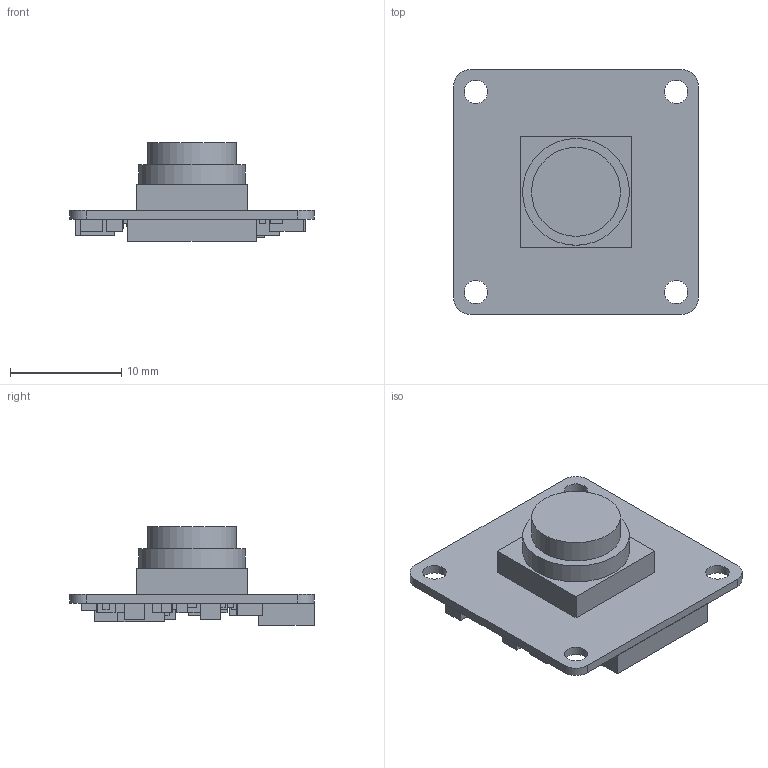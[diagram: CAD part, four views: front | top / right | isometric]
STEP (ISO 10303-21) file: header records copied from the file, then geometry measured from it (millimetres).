
FILE_DESCRIPTION(('Open CASCADE Model'),'2;1');
FILE_NAME('Open CASCADE Shape Model','2026-05-18T08:25:04',('Author'),( 'Open CASCADE'),'Open CASCADE STEP processor 7.5','Open CASCADE 7.5' ,'Unknown');
FILE_SCHEMA(('AUTOMOTIVE_DESIGN { 1 0 10303 214 1 1 1 1 }'));
Length unit declared in the file: millimetre
Products named in the file (89): PCB; Board; Open CASCADE STEP translator 7.5 1.1.1; R10; 6346291248; Extruded; D1; 6508890960; Q1; 6346286048; R3; 6346290448; R2; 6346290928; C25; 6346292048; C28; 6346289328; C27; C26; C13; CT2; 6508891360; CT1; 6508889120; R9; R8; C16; 6346291568; U2; 6346279808; R1; C8; R6; R5; C15; C5; C1; C12; C11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
Assembly tree (120 placements, depth 4):
  PCB
    Board
      Open CASCADE STEP translator 7.5 1.1.1
    R10
      6346291248
        Extruded
    D1
      6508890960
        Extruded
    Q1
      6346286048
        Extruded
    R3
      6346290448
        Extruded
    R2
      6346290928
        Extruded
    C25
      6346292048
        Extruded
    C28
      6346289328
        Extruded
    C27
      6346289328
        Extruded
    C26
      6346289328
        Extruded
    C13
      6346292048
        Extruded
    CT2
      6508891360
        Extruded
    CT1
      6508889120
        Extruded
    R9
      6346290448
        Extruded
    R8
      6346290928
        Extruded
    C16
      6346291568
        Extruded
    U2
      6346279808
        Extruded
    R1
      6346290448
        Extruded
    C8
      6346291568
        Extruded
    R6
      6346290448
        Extruded
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Bounding box: 22 x 22 x 8.9 mm (x, y, z)
Volume: 1092.9 mm3; surface area: 2387.7 mm2
Topology: 52 solids, 52 shells, 315 faces, 633 edges, 422 vertices
Faces by surface type: plane 305, cylinder 10
Full cylindrical faces by diameter (mm): 2.1 x4, 8 x1, 9.6 x1
Entity records: 5193 total; most frequent: DIRECTION 757, CARTESIAN_POINT 659, ORIENTED_EDGE 498, AXIS2_PLACEMENT_3D 264, EDGE_CURVE 249, LINE 229, VECTOR 229, PRODUCT_DEFINITION_SHAPE 209
